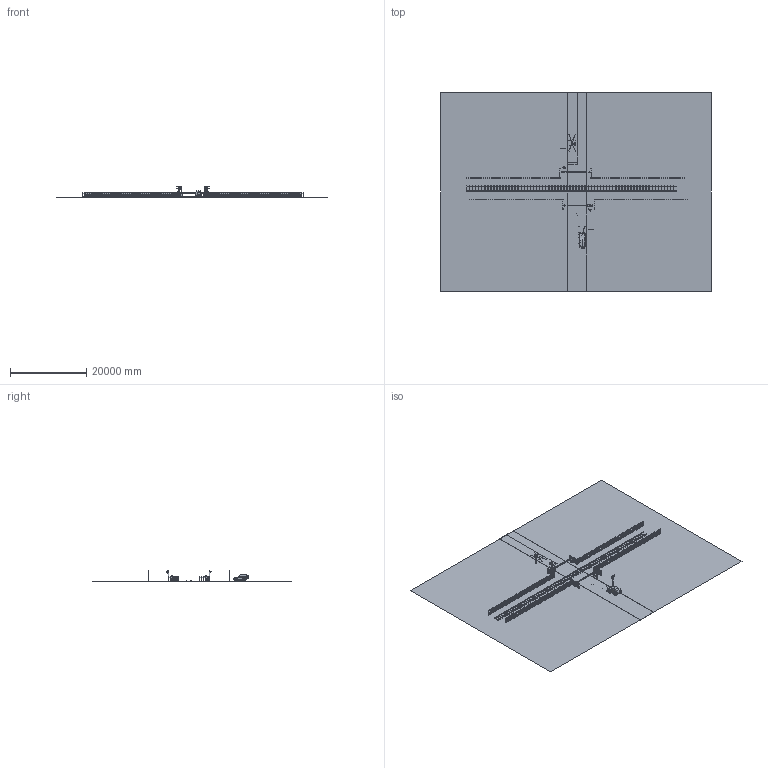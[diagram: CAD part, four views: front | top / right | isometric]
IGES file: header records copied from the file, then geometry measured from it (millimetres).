
Global section: file name: RAILWAY CROSSING; native system: Autodesk Inventor 2015; preprocessor: unknown; author: Massimo Pizzirani; date: 20171102.153515; units: millimetre
Bounding box: 71051.95 x 52221.92 x 3125.51 mm (x, y, z)
Surface area: 4582001333 mm2 (no closed solid volume)
Topology: 0 solids, 0 shells, 7197 faces, 36161 edges, 36105 vertices
Faces by surface type: plane 6773, revolution 276, bspline 148
